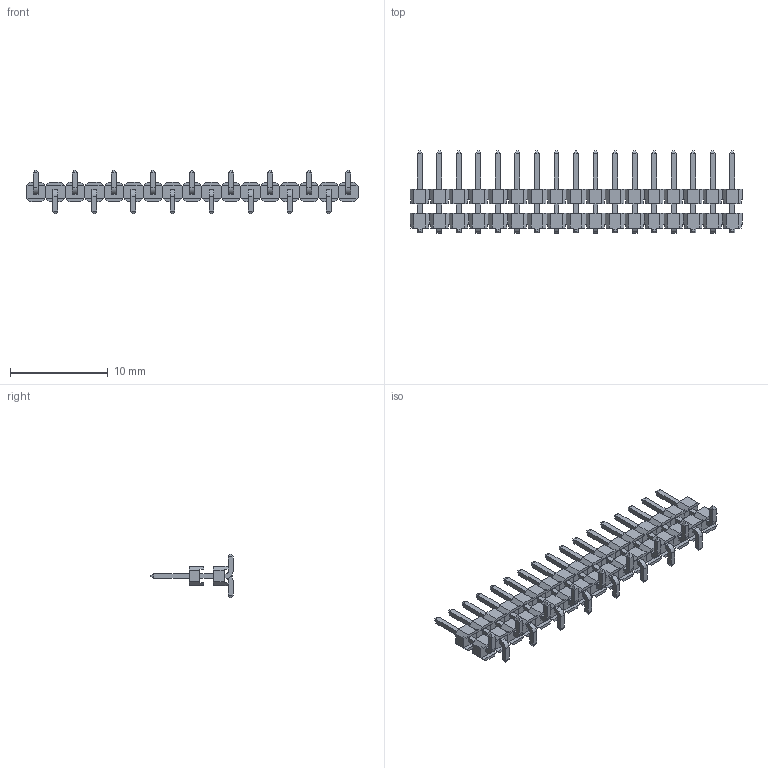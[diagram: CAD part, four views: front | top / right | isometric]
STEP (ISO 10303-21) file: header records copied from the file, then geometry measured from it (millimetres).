
FILE_DESCRIPTION(/* description */ (''),/* implementation_level */ '2;1');
FILE_NAME(/* name */ 'PZ200-1-17-S-C4.0-XX-X-DP(L8.4)(2.00 单排 排针 双塑 贴片-HCTL).stp',/* time_stamp */ '2026-10-23T09:27:06+08:00',/* author */ (''),/* organization */ (''),/* preprocessor_version */ 'ST-DEVELOPER v16',/* originating_system */ 'SIEMENS PLM Software NX 10.0',/* authorisation */ '');
FILE_SCHEMA (('AUTOMOTIVE_DESIGN { 1 0 10303 214 3 1 1 1 }'));
Length unit declared in the file: millimetre
Products named in the file (1): PZ200-1-N-S-C4.0-XX-X-DP(L8.4)(2.00 单排 排针 
双塑 贴片-HCTL)
Bounding box: 34 x 8.4 x 4.5 mm (x, y, z)
Volume: 182.7 mm3; surface area: 866.1 mm2
Topology: 17 solids, 17 shells, 952 faces, 2448 edges, 1564 vertices
Faces by surface type: plane 918, cylinder 34
Entity records: 31474 total; most frequent: CARTESIAN_POINT 4965, ORIENTED_EDGE 4896, DIRECTION 4422, EDGE_CURVE 2448, LINE 2380, VECTOR 2380, VERTEX_POINT 1564, AXIS2_PLACEMENT_3D 1021
